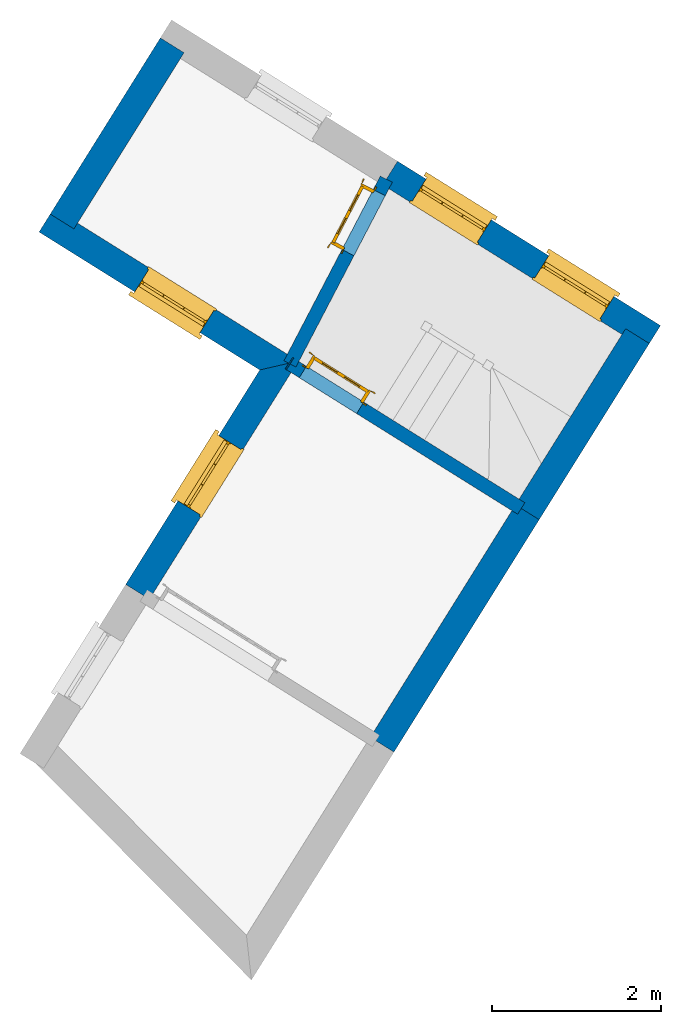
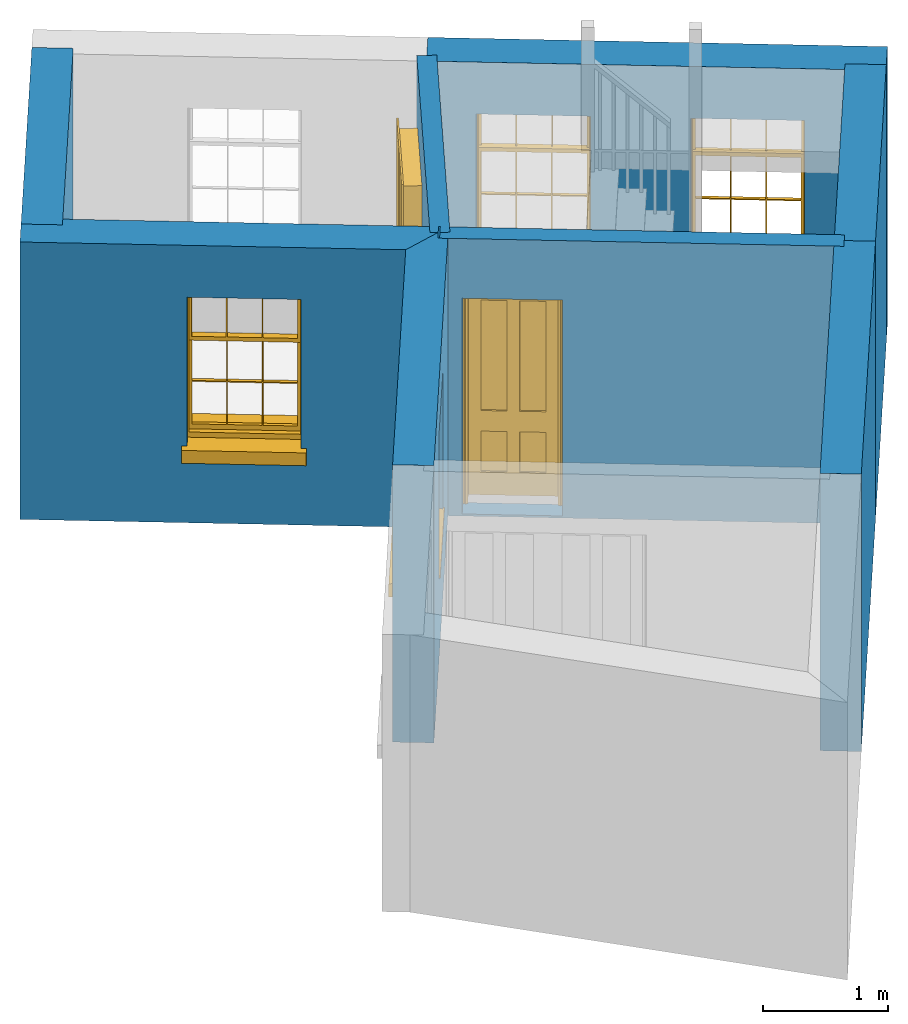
# One storey, part 2 of 4: 9 walls, 4 windows, 2 doors, 6 openings.
"""IFC4 building model written with IfcOpenShell, lengths in metres."""

from ifc_helpers import new_model, si_unit, frame, origin, origin_with_axes, place, context, subcontext, project, spatial, polyline, outline, extrude, faceted_brep, source, transform, mapped, material, layer, layer_set, layer_usage, type_object, type_shapes, element, fill, save


model = new_model("IFC4")

# Units and contexts
model_context = context("Model", 3, world=origin_with_axes())
body_context = subcontext(model_context, "Body", "Model", "MODEL_VIEW")
ifc_project = project(units=[si_unit("PLANEANGLEUNIT", "RADIAN"), si_unit("MASSUNIT", "GRAM", prefix="KILO"), si_unit("FORCEUNIT", "NEWTON", prefix="KILO"), si_unit("LENGTHUNIT", "METRE"), si_unit("AREAUNIT", "SQUARE_METRE"), si_unit("VOLUMEUNIT", "CUBIC_METRE")], contexts=[model_context, model_context])

# Sites, building, storey
site_1_placement = place(None, origin_with_axes())
site_1 = spatial("IfcSite", under=ifc_project, at=site_1_placement, Name="Tamar")
site_2_placement = place(site_1_placement, origin_with_axes())
site_2 = spatial("IfcSite", under=site_1, at=site_2_placement, Name="Site plot-3", CompositionType="ELEMENT")
building_placement = place(None, origin_with_axes())
building = spatial("IfcBuilding", under=site_2, at=building_placement, Name="Building plot-3", CompositionType="ELEMENT")
storey_placement = place(None, frame((0.0, 0.0, 27.8), z_axis=(0.0, 0.0, 1.0), x_axis=(1.0, 0.0, 0.0)))
storey = spatial("IfcBuildingStorey", under=building, at=storey_placement, Name="plot-3 1", CompositionType="ELEMENT", Elevation=27.8)

# Wall, opening, window
ifc_material_1 = material(Name="Masonry")
ifc_layer_1 = layer(ifc_material_1, 0.33, ventilated=False)
ifc_layer_set_1 = layer_set([ifc_layer_1], Name="exterior_0.08_0.25")
ifc_layer_usage_1 = layer_usage(ifc_layer_set_1, "AXIS2", "POSITIVE", -0.25)
wall_type_1 = type_object("IfcWallType", Name="exterior_0.08_0.25", PredefinedType="SOLIDWALL", material=ifc_layer_set_1)
wall_1_placement = place(storey_placement, frame((213.677187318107, 287.698431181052, 0.0), z_axis=(0.0, 0.0, 1.0), x_axis=(0.847981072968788, -0.530026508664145, 0.0)))
wall_1 = element("IfcWall", 1, at=wall_1_placement, inside=storey, type_object=wall_type_1, material=ifc_layer_usage_1, Name="exterior", context=body_context, shape_type="SweptSolid", body=[
    extrude(outline(polyline([(-0.249999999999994, 0.0800000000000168), (-0.249999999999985, -0.250000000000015), (2.82765367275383, -0.250000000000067), (3.15765367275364, 0.0800000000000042), (-0.249999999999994, 0.0800000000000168)])), origin_with_axes(), (0.0, 0.0, 1.0), 2.7),
])
opening_1_placement = place(wall_1_placement, frame((1.08382683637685, 0.0, 0.75)))
opening_1 = element("IfcOpeningElement", 2, at=opening_1_placement, cuts=wall_1, Name="My Opening", ObjectType="Opening", context=body_context, shape_type="SweptSolid", body=[
    extrude(outline(polyline([(0.0, -0.269999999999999), (0.909999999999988, -0.270000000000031), (0.91, 1.09999999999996), (1.24344978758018e-14, 1.09999999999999), (0.0, -0.269999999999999)])), origin_with_axes(), (0.0, 0.0, 1.0), 1.445),
])
window_type = type_object("IfcWindowType", Name="sash_shorter", PartitioningType="DOUBLE_PANEL_HORIZONTAL", PredefinedType="NOTDEFINED")
shared_shape_1 = source(origin(), body_context, "Body", "Brep", [
    faceted_brep([(0.876875, 0.145, 0.999097), (0.876875, 0.145, 1.411875), (0.9, 0.145, 1.435), (0.033125, 0.145, 1.411875), (0.033125, 0.145, 0.999097), (0.01, 0.145, 1.435), (0.033125, 0.115, 1.411875), (0.01, 0.115, 1.435), (0.033125, 0.115, 0.999097), (0.876875, 0.115, 1.411875), (0.876875, 0.115, 0.999097), (0.9, 0.115, 1.435), (0.033125, 0.145, 0.960972), (0.01, 0.145, 0.960972), (0.033125, 0.145, 0.548195), (0.876875, 0.145, 0.960972), (0.876875, 0.145, 0.548195), (0.9, 0.145, 0.960972), (0.876875, 0.145, 0.538195), (0.876875, 0.145, 0.125417), (0.9, 0.145, 0.077167), (0.033125, 0.145, 0.125417), (0.033125, 0.145, 0.538195), (0.01, 0.145, 0.077167), (0.9, 0.115, 0.960972), (0.01, 0.115, 0.960972), (-0.0425, 0.0, 0.01), (-0.0425, -0.05, 0.001667), (0.0, 0.0, 0.01), (0.9525, 0.0, 0.01), (0.91, 0.0, 0.01), (0.9525, -0.05, 0.001667), (-0.02, 0.33, 0.077167), (0.0, 0.33, 0.077167), (-0.02, 0.36, 0.077167), (0.0, 0.19, 0.077167), (0.01, 0.19, 0.077167), (0.91, 0.19, 0.077167), (0.91, 0.33, 0.077167), (0.9, 0.19, 0.077167), (0.93, 0.33, 0.077167), (0.93, 0.36, 0.077167), (0.01, 0.145, 0.999097), (0.01, 0.175, 0.999097), (0.9, 0.145, 0.999097), (0.9, 0.175, 0.999097), (0.876875, 0.175, 0.125417), (0.876875, 0.175, 0.538195), (0.9, 0.175, 0.077167), (0.876875, 0.175, 0.548195), (0.876875, 0.175, 0.960972), (0.033125, 0.175, 0.125417), (0.01, 0.175, 0.077167), (0.033125, 0.175, 0.538195), (0.033125, 0.175, 0.960972), (0.033125, 0.175, 0.548195), (-0.02, 0.33, 0.052167), (-0.02, 0.36, 0.052167), (0.93, 0.36, 0.052167), (0.93, 0.33, 0.052167), (0.91, 0.33, 0.052167), (0.0, 0.33, 0.052167), (0.91, 0.1, 0.026667), (0.0, 0.1, 0.026667), (-0.0425, -0.05, -0.123333), (0.9525, -0.05, -0.123333), (-0.0425, 0.0, -0.123333), (0.9525, 0.0, -0.123333), (0.01, 0.19, 1.435), (0.9, 0.19, 1.435), (0.0, 0.19, 1.445), (0.91, 0.19, 1.445), (0.01, 0.1, 0.077167), (0.9, 0.1, 0.077167), (0.592292, 0.145, 0.125417), (0.592292, 0.175, 0.125417), (0.317708, 0.175, 0.125417), (0.317708, 0.145, 0.125417), (0.592292, 0.145, 0.548195), (0.317708, 0.145, 0.548195), (0.317708, 0.145, 0.538195), (0.592292, 0.145, 0.538195), (0.592292, 0.175, 0.548195), (0.317708, 0.175, 0.548195), (0.602292, 0.175, 0.548195), (0.602292, 0.145, 0.548195), (0.317708, 0.175, 0.538195), (0.307708, 0.175, 0.125417), (0.307708, 0.175, 0.538195), (0.602292, 0.175, 0.538195), (0.602292, 0.175, 0.125417), (0.592292, 0.175, 0.538195), (0.307708, 0.175, 0.548195), (0.317708, 0.175, 0.960972), (0.307708, 0.175, 0.960972), (0.602292, 0.175, 0.960972), (0.592292, 0.175, 0.960972), (0.307708, 0.145, 0.538195), (0.307708, 0.145, 0.125417), (0.307708, 0.145, 0.548195), (0.307708, 0.145, 0.960972), (0.592292, 0.145, 0.960972), (0.317708, 0.145, 0.960972), (0.602292, 0.145, 0.960972), (0.602292, 0.145, 0.538195), (0.602292, 0.145, 0.125417), (0.317708, 0.115, 1.411875), (0.307708, 0.115, 1.411875), (0.307708, 0.115, 0.999097), (0.317708, 0.115, 0.999097), (0.602292, 0.115, 1.411875), (0.592292, 0.115, 1.411875), (0.592292, 0.115, 0.999097), (0.602292, 0.115, 0.999097), (0.317708, 0.145, 0.999097), (0.307708, 0.145, 0.999097), (0.307708, 0.145, 1.411875), (0.317708, 0.145, 1.411875), (0.602292, 0.145, 0.999097), (0.592292, 0.145, 0.999097), (0.592292, 0.145, 1.411875), (0.602292, 0.145, 1.411875), (0.91, 0.1, 1.445), (0.9, 0.1, 1.435), (0.01, 0.1, 1.435), (0.0, 0.1, 1.445), (0.91, 0.0, 0.0), (0.0, 0.0, 0.0), (0.91, 0.33, 0.0), (0.0, 0.33, 0.0)], [[[0, 1, 2]], [[3, 4, 5]], [[6, 7, 8]], [[9, 10, 11]], [[12, 13, 14]], [[15, 16, 17]], [[18, 19, 20]], [[21, 22, 23]], [[24, 15, 17]], [[13, 12, 25]], [[26, 27, 28]], [[29, 30, 31]], [[32, 33, 34]], [[35, 36, 33]], [[37, 38, 39]], [[40, 41, 38]], [[42, 4, 43]], [[44, 45, 0]], [[46, 47, 48]], [[49, 50, 45]], [[51, 52, 53]], [[54, 55, 43]], [[38, 33, 36, 39]], [[41, 34, 33, 38]], [[56, 32, 34, 57]], [[57, 34, 41, 58]], [[58, 41, 40, 59]], [[57, 58, 60, 61]], [[52, 48, 39, 36]], [[62, 63, 28, 30]], [[27, 31, 30, 28]], [[27, 64, 65, 31]], [[66, 67, 65, 64]], [[2, 5, 68, 69]], [[68, 70, 71, 69]], [[20, 23, 72, 73]], [[73, 72, 63, 62]], [[74, 75, 76, 77]], [[78, 79, 80, 81]], [[78, 82, 83, 79]], [[16, 49, 84, 85]], [[86, 76, 87, 88]], [[89, 90, 75, 91]], [[92, 88, 53, 55]], [[82, 91, 86, 83]], [[93, 83, 92, 94]], [[95, 84, 82, 96]], [[89, 84, 49, 47]], [[97, 88, 87, 98]], [[22, 53, 88, 97]], [[81, 91, 75, 74]], [[80, 86, 91, 81]], [[77, 76, 86, 80]], [[99, 92, 55, 14]], [[100, 94, 92, 99]], [[101, 96, 82, 78]], [[79, 83, 93, 102]], [[85, 84, 95, 103]], [[104, 89, 47, 18]], [[105, 90, 89, 104]], [[104, 18, 16, 85]], [[80, 97, 98, 77]], [[104, 81, 74, 105]], [[103, 101, 78, 85]], [[99, 14, 22, 97]], [[102, 100, 99, 79]], [[106, 107, 108, 109]], [[110, 111, 112, 113]], [[114, 115, 116, 117]], [[118, 119, 120, 121]], [[107, 116, 115, 108]], [[111, 120, 119, 112]], [[109, 114, 117, 106]], [[113, 118, 121, 110]], [[85, 78, 81, 104]], [[84, 89, 91, 82]], [[83, 86, 88, 92]], [[79, 99, 97, 80]], [[109, 112, 119, 114]], [[102, 93, 96, 101]], [[106, 117, 120, 111]], [[98, 87, 51, 21]], [[6, 3, 116, 107]], [[110, 121, 1, 9]], [[19, 46, 90, 105]], [[26, 66, 64, 27]], [[29, 31, 65, 67]], [[25, 24, 112, 109]], [[11, 7, 106, 111]], [[75, 48, 52, 76]], [[43, 45, 96, 93]], [[45, 43, 114, 119]], [[5, 2, 120, 117]], [[24, 25, 102, 101]], [[42, 5, 4]], [[2, 44, 0]], [[49, 45, 48, 47]], [[52, 43, 55, 53]], [[14, 13, 23, 22]], [[20, 17, 16, 18]], [[24, 11, 10]], [[25, 8, 7]], [[8, 4, 3, 6]], [[9, 1, 0, 10]], [[15, 50, 49, 16]], [[18, 47, 46, 19]], [[21, 51, 53, 22]], [[14, 55, 54, 12]], [[44, 2, 69, 45]], [[68, 5, 42, 43]], [[36, 35, 70, 68]], [[39, 69, 71, 37]], [[62, 122, 123, 73]], [[63, 72, 124, 125]], [[8, 108, 115, 4]], [[113, 10, 0, 118]], [[94, 100, 12, 54]], [[17, 20, 73, 24]], [[72, 23, 13, 25]], [[52, 36, 68, 43]], [[69, 39, 48, 45]], [[11, 24, 73, 123]], [[7, 124, 72, 25]], [[23, 77, 98]], [[98, 21, 23]], [[105, 74, 20]], [[20, 19, 105]], [[20, 74, 77, 23]], [[113, 112, 24]], [[24, 10, 113]], [[25, 109, 108]], [[108, 8, 25]], [[110, 9, 11]], [[11, 111, 110]], [[7, 6, 107]], [[107, 106, 7]], [[5, 117, 116]], [[116, 3, 5]], [[121, 120, 2]], [[2, 1, 121]], [[11, 123, 124, 7]], [[122, 125, 124, 123]], [[43, 93, 94]], [[94, 54, 43]], [[96, 45, 95]], [[50, 95, 45]], [[15, 103, 95, 50]], [[48, 75, 90]], [[90, 46, 48]], [[87, 76, 52]], [[52, 51, 87]], [[103, 15, 24]], [[24, 101, 103]], [[100, 102, 25]], [[25, 12, 100]], [[115, 114, 43]], [[43, 4, 115]], [[118, 0, 45]], [[45, 119, 118]], [[71, 70, 125, 122]], [[70, 35, 63, 125]], [[122, 62, 37, 71]], [[126, 67, 66, 127]], [[60, 58, 59]], [[38, 60, 59, 40]], [[61, 56, 57]], [[32, 56, 61, 33]], [[61, 60, 128, 129]], [[62, 60, 38, 37]], [[126, 128, 60, 62]], [[33, 61, 63, 35]], [[61, 129, 127, 63]], [[128, 126, 127, 129]], [[28, 127, 66, 26]], [[63, 127, 28]], [[29, 67, 126, 30]], [[30, 126, 62]]]),
])
type_shapes(window_type, [shared_shape_1])
window_1_placement = place(storey_placement, frame((214.453144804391, 286.895019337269, 0.75), z_axis=(0.0, 0.0, 1.0), x_axis=(0.77166277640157, -0.482324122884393, 0.0)))
window_1 = element("IfcWindow", 3, at=window_1_placement, inside=storey, type_object=window_type, Name="toilet outside window", OverallHeight=1.445, OverallWidth=0.91, context=body_context, shape_type="MappedRepresentation", body=[
    mapped(shared_shape_1, transform((0.0, 0.0, 0.0), scale=1.0)),
])
fill(opening_1, window_1)

wall_2_placement = place(storey_placement, frame((216.286979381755, 286.067193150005, 0.0), z_axis=(0.0, 0.0, 1.0), x_axis=(-0.530026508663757, -0.84798107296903, 0.0)))
wall_2 = element("IfcWall", 4, at=wall_2_placement, inside=storey, type_object=wall_type_1, material=ifc_layer_usage_1, Name="exterior", context=body_context, shape_type="SweptSolid", body=[
    extrude(outline(polyline([(-0.0799999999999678, 0.0799999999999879), (0.249999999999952, -0.249999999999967), (3.24059567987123, -0.249999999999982), (3.24059567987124, 0.0799999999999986), (-0.0799999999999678, 0.0799999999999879)])), origin_with_axes(), (0.0, 0.0, 1.0), 2.7),
])
opening_2_placement = place(wall_2_placement, frame((1.16529783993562, 0.0, 0.75)))
opening_2 = element("IfcOpeningElement", 5, at=opening_2_placement, cuts=wall_2, Name="My Opening", ObjectType="Opening", context=body_context, shape_type="SweptSolid", body=[
    extrude(outline(polyline([(0.0, -0.269999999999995), (0.909999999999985, -0.270000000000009), (0.910000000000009, 1.1), (2.44249065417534e-14, 1.10000000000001), (0.0, -0.269999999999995)])), origin_with_axes(), (0.0, 0.0, 1.0), 1.445),
])
window_2_placement = place(storey_placement, frame((215.440385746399, 285.222149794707, 0.75), z_axis=(0.0, 0.0, 1.0), x_axis=(-0.482324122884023, -0.771662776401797, 0.0)))
window_2 = element("IfcWindow", 6, at=window_2_placement, inside=storey, type_object=window_type, Name="living outside window", OverallHeight=1.445, OverallWidth=0.91, context=body_context, shape_type="MappedRepresentation", body=[
    mapped(shared_shape_1, transform((0.0, 0.0, 0.0), scale=1.0)),
])
fill(opening_2, window_2)

# Wall, openings, windows
wall_3_placement = place(storey_placement, frame((220.336316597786, 286.433012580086, 0.0), z_axis=(0.0, 0.0, 1.0), x_axis=(-0.847981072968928, 0.53002650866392, 0.0)))
wall_3 = element("IfcWall", 7, at=wall_3_placement, inside=storey, type_object=wall_type_1, material=ifc_layer_usage_1, Name="exterior", context=body_context, shape_type="SweptSolid", body=[
    extrude(outline(polyline([(-0.249999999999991, 0.0800000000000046), (-0.249999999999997, -0.249999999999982), (3.41702773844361, -0.24999999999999), (3.41702773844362, 0.0799999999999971), (-0.249999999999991, 0.0800000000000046)])), origin_with_axes(), (0.0, 0.0, 1.0), 2.7),
])
opening_3_placement = place(wall_3_placement, frame((0.399256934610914, 0.0, 0.75)))
opening_3 = element("IfcOpeningElement", 8, at=opening_3_placement, cuts=wall_3, Name="My Opening", ObjectType="Opening", context=body_context, shape_type="SweptSolid", body=[
    extrude(outline(polyline([(0.0, -0.269999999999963), (0.909999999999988, -0.269999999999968), (0.910000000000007, 1.1), (2.00950367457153e-14, 1.10000000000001), (0.0, -0.269999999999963)])), origin_with_axes(), (0.0, 0.0, 1.0), 1.445),
])
opening_4_placement = place(wall_3_placement, frame((2.1092569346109, 0.0, 0.75)))
opening_4 = element("IfcOpeningElement", 9, at=opening_4_placement, cuts=wall_3, Name="My Opening", ObjectType="Opening", context=body_context, shape_type="SweptSolid", body=[
    extrude(outline(polyline([(0.0, -0.269999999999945), (0.909999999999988, -0.26999999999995), (0.910000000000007, 1.10000000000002), (1.95399252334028e-14, 1.10000000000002), (0.0, -0.269999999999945)])), origin_with_axes(), (0.0, 0.0, 1.0), 1.445),
])
window_3_placement = place(storey_placement, frame((220.140861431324, 286.873584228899, 0.75), z_axis=(0.0, 0.0, 1.0), x_axis=(-0.771662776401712, 0.482324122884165, 0.0)))
window_3 = element("IfcWindow", 10, at=window_3_placement, inside=storey, type_object=window_type, Name="circulation outside window", OverallHeight=1.445, OverallWidth=0.91, context=body_context, shape_type="MappedRepresentation", body=[
    mapped(shared_shape_1, transform((0.0, 0.0, 0.0), scale=1.0)),
])
fill(opening_3, window_3)
window_4_placement = place(storey_placement, frame((218.690813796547, 287.779929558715, 0.75), z_axis=(0.0, 0.0, 1.0), x_axis=(-0.771662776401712, 0.482324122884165, 0.0)))
window_4 = element("IfcWindow", 11, at=window_4_placement, inside=storey, type_object=window_type, Name="circulation outside window", OverallHeight=1.445, OverallWidth=0.91, context=body_context, shape_type="MappedRepresentation", body=[
    mapped(shared_shape_1, transform((0.0, 0.0, 0.0), scale=1.0)),
])
fill(opening_4, window_4)

# Walls
ifc_material_2 = material(Name="Masonry")
ifc_layer_2 = layer(ifc_material_2, 0.33, ventilated=False)
ifc_layer_set_2 = layer_set([ifc_layer_2], Name="party_0.08_0.25")
ifc_layer_usage_2 = layer_usage(ifc_layer_set_2, "AXIS2", "POSITIVE", -0.25)
wall_type_2 = type_object("IfcWallType", Name="party_0.08_0.25", PredefinedType="SOLIDWALL", material=ifc_layer_set_2)
wall_4_placement = place(storey_placement, frame((214.979178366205, 289.781466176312, 0.0), z_axis=(0.0, 0.0, 1.0), x_axis=(-0.5300265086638, -0.847981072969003, 0.0)))
element("IfcWall", 12, at=wall_4_placement, inside=storey, type_object=wall_type_2, material=ifc_layer_usage_2, Name="party", context=body_context, shape_type="SweptSolid", body=[
    extrude(outline(polyline([(1.05013367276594e-14, 0.0799999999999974), (2.06654563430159e-14, -0.249999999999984), (2.45646401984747, -0.249999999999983), (2.45646401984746, 0.0799999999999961), (1.05013367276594e-14, 0.0799999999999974)])), origin_with_axes(), (0.0, 0.0, 1.0), 2.7),
])
wall_5_placement = place(storey_placement, frame((217.316723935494, 281.602013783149, 0.0), z_axis=(0.0, 0.0, 1.0), x_axis=(0.530026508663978, 0.847981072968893, 0.0)))
element("IfcWall", 13, at=wall_5_placement, inside=storey, type_object=wall_type_2, material=ifc_layer_usage_2, Name="party", context=body_context, shape_type="SweptSolid", body=[
    extrude(outline(polyline([(-6.23011391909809e-15, 0.0799999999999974), (8.8055993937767e-14, -0.250000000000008), (3.24059567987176, -0.24999999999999), (3.24059567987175, 0.0799999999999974), (-6.23011391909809e-15, 0.0799999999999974)])), origin_with_axes(), (0.0, 0.0, 1.0), 2.7),
])
wall_6_placement = place(storey_placement, frame((219.034325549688, 284.349977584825, 0.0), z_axis=(0.0, 0.0, 1.0), x_axis=(0.530026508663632, 0.847981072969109, 0.0)))
element("IfcWall", 14, at=wall_6_placement, inside=storey, type_object=wall_type_2, material=ifc_layer_usage_2, Name="party", context=body_context, shape_type="SweptSolid", body=[
    extrude(outline(polyline([(2.64015612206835e-14, 0.0799999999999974), (-9.22442252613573e-14, -0.24999999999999), (2.45646401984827, -0.250000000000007), (2.4564640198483, 0.0800000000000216), (2.64015612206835e-14, 0.0799999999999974)])), origin_with_axes(), (0.0, 0.0, 1.0), 2.7),
])

# Wall, opening, door
ifc_material_3 = material(Name="Masonry")
ifc_layer_3 = layer(ifc_material_3, 0.16, ventilated=False)
ifc_layer_set_3 = layer_set([ifc_layer_3], Name="interior_0.08_0.08")
ifc_layer_usage_3 = layer_usage(ifc_layer_set_3, "AXIS2", "POSITIVE", -0.08)
wall_type_3 = type_object("IfcWallType", Name="interior_0.08_0.08", PredefinedType="SOLIDWALL", material=ifc_layer_set_3)
wall_7_placement = place(storey_placement, frame((216.299124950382, 286.059601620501, 0.0), z_axis=(0.0, 0.0, 1.0), x_axis=(0.462522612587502, 0.886607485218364, 0.0)))
wall_7 = element("IfcWall", 15, at=wall_7_placement, inside=storey, type_object=wall_type_3, material=ifc_layer_usage_3, Name="interior", context=body_context, shape_type="SweptSolid", body=[
    extrude(outline(polyline([(-5.45772033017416e-16, 0.0799999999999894), (5.37805639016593e-16, -0.0799999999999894), (2.46391585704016, -0.0799999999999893), (2.46391585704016, 0.0799999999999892), (-5.45772033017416e-16, 0.0799999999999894)])), origin_with_axes(), (0.0, 0.0, 1.0), 2.7),
])
opening_5_placement = place(wall_7_placement, frame((1.48391585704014, 0.0, 0.0199999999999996)))
opening_5 = element("IfcOpeningElement", 16, at=opening_5_placement, cuts=wall_7, Name="My Opening", ObjectType="Opening", context=body_context, shape_type="SweptSolid", body=[
    extrude(outline(polyline([(0.0, -0.100000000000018), (0.80000000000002, -0.100000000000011), (0.800000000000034, 1.10000000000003), (1.3988810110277e-14, 1.10000000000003), (0.0, -0.100000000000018)])), origin_with_axes(), (0.0, 0.0, 1.0), 2.1),
])
door_type = type_object("IfcDoorType", Name="door_inside", OperationType="SINGLE_SWING_LEFT", PredefinedType="NOTDEFINED")
shared_shape_2 = source(origin(), body_context, "Body", "Brep", [
    faceted_brep([(0.773, 0.33, 1.895), (0.66, 0.33, 1.895), (0.66, 0.33, 2.073), (0.773, 0.33, 2.073), (0.773, 0.33, 0.82), (0.66, 0.33, 0.82), (0.45, 0.33, 1.895), (0.45, 0.33, 2.073), (0.773, 0.33, 0.62), (0.66, 0.33, 0.62), (0.66, 0.315, 0.82), (0.66, 0.315, 1.895), (0.45, 0.315, 1.895), (0.35, 0.33, 1.895), (0.35, 0.33, 2.073), (0.773, 0.33, 0.225), (0.66, 0.33, 0.225), (0.45, 0.33, 0.62), (0.45, 0.33, 0.82), (0.45, 0.315, 0.82), (0.35, 0.33, 0.82), (0.14, 0.33, 2.073), (0.14, 0.33, 1.895), (0.773, 0.33, 0.0), (0.66, 0.33, 0.0), (0.66, 0.315, 0.225), (0.66, 0.315, 0.62), (0.45, 0.315, 0.62), (0.35, 0.33, 0.62), (0.35, 0.315, 0.82), (0.35, 0.315, 1.895), (0.14, 0.315, 1.895), (0.027, 0.33, 2.073), (0.027, 0.33, 1.895), (0.773, 0.292, 0.0), (0.66, 0.292, 0.0), (0.45, 0.33, 0.0), (0.45, 0.33, 0.225), (0.45, 0.315, 0.225), (0.35, 0.33, 0.225), (0.14, 0.33, 0.82), (0.14, 0.33, 0.62), (0.14, 0.315, 0.82), (0.027, 0.33, 0.82), (0.773, 0.292, 0.225), (0.66, 0.292, 0.225), (0.45, 0.292, 0.0), (0.35, 0.33, 0.0), (0.35, 0.315, 0.225), (0.35, 0.315, 0.62), (0.14, 0.315, 0.62), (0.027, 0.33, 0.62), (0.773, 0.292, 0.62), (0.66, 0.292, 0.62), (0.45, 0.292, 0.225), (0.35, 0.292, 0.0), (0.14, 0.33, 0.225), (0.14, 0.33, 0.0), (0.14, 0.315, 0.225), (0.027, 0.33, 0.225), (0.773, 0.292, 0.82), (0.66, 0.292, 0.82), (0.66, 0.307, 0.62), (0.66, 0.307, 0.225), (0.45, 0.307, 0.225), (0.35, 0.292, 0.225), (0.14, 0.292, 0.0), (0.027, 0.33, 0.0), (0.773, 0.292, 1.895), (0.66, 0.292, 1.895), (0.45, 0.292, 0.62), (0.45, 0.292, 0.82), (0.45, 0.307, 0.62), (0.35, 0.292, 0.62), (0.14, 0.292, 0.225), (0.027, 0.292, 0.0), (0.773, 0.292, 2.073), (0.66, 0.292, 2.073), (0.66, 0.307, 1.895), (0.66, 0.307, 0.82), (0.45, 0.307, 0.82), (0.35, 0.292, 0.82), (0.35, 0.307, 0.62), (0.35, 0.307, 0.225), (0.14, 0.307, 0.225), (0.027, 0.292, 0.225), (0.45, 0.292, 1.895), (0.45, 0.292, 2.073), (0.45, 0.307, 1.895), (0.35, 0.292, 1.895), (0.14, 0.292, 0.82), (0.14, 0.292, 0.62), (0.14, 0.307, 0.62), (0.027, 0.292, 0.62), (0.35, 0.292, 2.073), (0.35, 0.307, 1.895), (0.35, 0.307, 0.82), (0.14, 0.307, 0.82), (0.027, 0.292, 0.82), (0.14, 0.292, 2.073), (0.14, 0.292, 1.895), (0.14, 0.307, 1.895), (0.027, 0.292, 1.895), (0.027, 0.292, 2.073), (0.02, 0.335, 0.0), (0.005, 0.34, 0.0), (0.005, 0.34, 2.095), (0.02, 0.335, 2.08), (0.02, 0.33, 0.0), (0.0, 0.335, 0.0), (0.0, 0.335, 2.1), (0.795, 0.34, 2.095), (0.78, 0.335, 2.08), (0.02, 0.33, 2.08), (0.0, 0.33, 0.0), (-0.032, 0.345, 0.0), (-0.032, 0.345, 2.132), (0.8, 0.335, 2.1), (0.795, 0.34, 0.0), (0.78, 0.335, 0.0), (0.78, 0.33, 2.08), (0.04, 0.29, 0.0), (0.025, 0.29, 0.0), (0.025, 0.29, 2.075), (0.04, 0.29, 2.06), (-0.04, 0.34, 0.0), (-0.04, 0.34, 2.14), (0.832, 0.345, 2.132), (0.8, 0.335, 0.0), (0.78, 0.33, 0.0), (0.8, 0.33, 0.0), (0.86, 0.33, 0.0), (0.86, 0.33, 2.16), (0.8, 0.33, 2.1), (-0.06, 0.33, 2.16), (0.0, 0.33, 2.1), (-0.06, 0.33, 0.0), (-0.04, 0.345, 0.0), (-0.04, 0.345, 2.14), (0.84, 0.34, 2.14), (0.832, 0.345, 0.0), (0.84, 0.34, 0.0), (0.86, 0.345, 0.0), (0.86, 0.345, 2.16), (-0.06, 0.345, 2.16), (-0.06, 0.345, 0.0), (0.84, 0.345, 0.0), (0.84, 0.345, 2.14), (-0.025, 0.155, 0.0), (-0.025, 0.16, 0.0), (-0.025, 0.16, 2.125), (-0.025, 0.155, 2.125), (-0.017, 0.155, 0.0), (-0.017, 0.155, 2.117), (0.825, 0.16, 2.125), (0.825, 0.155, 2.125), (0.825, 0.155, 0.0), (0.845, 0.155, 0.0), (-0.045, 0.155, 2.145), (-0.045, 0.155, 0.0), (0.845, 0.155, 2.145), (0.015, 0.165, 0.0), (0.015, 0.165, 2.085), (0.817, 0.155, 2.117), (0.825, 0.16, 0.0), (0.845, 0.17, 0.0), (0.845, 0.17, 2.145), (-0.045, 0.17, 2.145), (-0.045, 0.17, 0.0), (0.02, 0.16, 0.0), (0.02, 0.16, 2.08), (0.785, 0.165, 2.085), (0.817, 0.155, 0.0), (0.8, 0.17, 0.0), (0.8, 0.17, 2.1), (0.0, 0.17, 2.1), (0.0, 0.17, 0.0), (0.035, 0.165, 0.0), (0.035, 0.165, 2.065), (0.78, 0.16, 2.08), (0.785, 0.165, 0.0), (0.775, 0.29, 2.075), (0.76, 0.29, 2.06), (0.035, 0.17, 2.065), (0.035, 0.17, 0.0), (0.765, 0.165, 2.065), (0.78, 0.16, 0.0), (0.765, 0.17, 0.0), (0.765, 0.17, 2.065), (0.765, 0.165, 0.0), (0.04, 0.17, 2.06), (0.04, 0.17, 0.0), (0.76, 0.17, 2.06), (0.76, 0.17, 0.0), (0.76, 0.29, 0.0), (0.775, 0.29, 0.0), (0.025, 0.33, 0.0), (0.025, 0.33, 2.075), (0.775, 0.33, 0.0), (0.775, 0.33, 2.075)], [[[0, 1, 2, 3]], [[1, 0, 4, 5]], [[1, 6, 7, 2]], [[8, 9, 5, 4]], [[1, 5, 10, 11]], [[6, 1, 11, 12]], [[6, 13, 14, 7]], [[15, 16, 9, 8]], [[9, 17, 18, 5]], [[5, 18, 19, 10]], [[10, 19, 12, 11]], [[18, 6, 12, 19]], [[18, 20, 13, 6]], [[21, 14, 13, 22]], [[23, 24, 16, 15]], [[9, 16, 25, 26]], [[17, 9, 26, 27]], [[17, 28, 20, 18]], [[13, 20, 29, 30]], [[22, 13, 30, 31]], [[32, 21, 22, 33]], [[34, 35, 24, 23]], [[24, 36, 37, 16]], [[16, 37, 38, 25]], [[25, 38, 27, 26]], [[37, 17, 27, 38]], [[37, 39, 28, 17]], [[40, 20, 28, 41]], [[20, 40, 42, 29]], [[31, 30, 29, 42]], [[40, 22, 31, 42]], [[33, 22, 40, 43]], [[35, 34, 44, 45]], [[35, 46, 36, 24]], [[36, 47, 39, 37]], [[28, 39, 48, 49]], [[41, 28, 49, 50]], [[43, 40, 41, 51]], [[45, 44, 52, 53]], [[46, 35, 45, 54]], [[46, 55, 47, 36]], [[56, 39, 47, 57]], [[39, 56, 58, 48]], [[50, 49, 48, 58]], [[56, 41, 50, 58]], [[51, 41, 56, 59]], [[53, 52, 60, 61]], [[45, 53, 62, 63]], [[54, 45, 63, 64]], [[55, 46, 54, 65]], [[55, 66, 57, 47]], [[59, 56, 57, 67]], [[61, 60, 68, 69]], [[70, 53, 61, 71]], [[53, 70, 72, 62]], [[72, 64, 63, 62]], [[70, 54, 64, 72]], [[65, 54, 70, 73]], [[65, 74, 66, 55]], [[67, 57, 66, 75]], [[69, 68, 76, 77]], [[61, 69, 78, 79]], [[71, 61, 79, 80]], [[73, 70, 71, 81]], [[65, 73, 82, 83]], [[74, 65, 83, 84]], [[74, 85, 75, 66]], [[86, 69, 77, 87]], [[69, 86, 88, 78]], [[88, 80, 79, 78]], [[86, 71, 80, 88]], [[81, 71, 86, 89]], [[73, 81, 90, 91]], [[73, 91, 92, 82]], [[83, 82, 92, 84]], [[91, 74, 84, 92]], [[91, 93, 85, 74]], [[89, 86, 87, 94]], [[81, 89, 95, 96]], [[90, 81, 96, 97]], [[90, 98, 93, 91]], [[94, 99, 100, 89]], [[89, 100, 101, 95]], [[101, 97, 96, 95]], [[100, 90, 97, 101]], [[100, 102, 98, 90]], [[99, 103, 102, 100]], [[32, 103, 99, 21]], [[102, 103, 32, 33]], [[98, 102, 33, 43]], [[21, 99, 94, 14]], [[94, 87, 7, 14]], [[7, 87, 77, 2]], [[76, 3, 2, 77]], [[43, 51, 93, 98]], [[51, 59, 85, 93]], [[67, 75, 85, 59]], [[34, 23, 15, 44]], [[44, 15, 8, 52]], [[52, 8, 4, 60]], [[0, 68, 60, 4]], [[0, 3, 76, 68]], [[104, 105, 106, 107]], [[104, 108, 109, 105]], [[105, 109, 110, 106]], [[107, 106, 111, 112]], [[107, 113, 108, 104]], [[114, 109, 108]], [[109, 115, 116, 110]], [[106, 110, 117, 111]], [[112, 111, 118, 119]], [[113, 107, 112, 120]], [[121, 122, 123, 124]], [[115, 109, 114, 125]], [[115, 125, 126, 116]], [[110, 116, 127, 117]], [[111, 117, 128, 118]], [[118, 128, 129, 119]], [[120, 112, 119, 129]], [[130, 129, 128]], [[130, 131, 132, 133]], [[133, 132, 134, 135]], [[135, 134, 136, 114]], [[136, 125, 114]], [[125, 137, 138, 126]], [[116, 126, 139, 127]], [[117, 127, 140, 128]], [[141, 130, 128, 140]], [[131, 130, 141]], [[131, 142, 143, 132]], [[132, 143, 144, 134]], [[134, 144, 145, 136]], [[137, 125, 136, 145]], [[143, 142, 146]], [[143, 146, 147]], [[137, 145, 144]], [[143, 147, 138]], [[138, 137, 144]], [[143, 138, 144]], [[126, 138, 147, 139]], [[127, 139, 141, 140]], [[142, 131, 141, 146]], [[139, 147, 146, 141]], [[148, 149, 150, 151]], [[149, 152, 153, 150]], [[151, 150, 154, 155]], [[155, 156, 157]], [[158, 159, 148]], [[158, 148, 151]], [[155, 157, 160]], [[158, 151, 155]], [[155, 160, 158]], [[152, 161, 162, 153]], [[150, 153, 163, 154]], [[155, 154, 164, 156]], [[156, 164, 165, 157]], [[157, 165, 166, 160]], [[160, 166, 167, 158]], [[158, 167, 168, 159]], [[161, 169, 170, 162]], [[153, 162, 171, 163]], [[154, 163, 172, 164]], [[165, 164, 173]], [[165, 173, 174, 166]], [[166, 174, 175, 167]], [[167, 175, 176, 168]], [[169, 177, 178, 170]], [[162, 170, 179, 171]], [[163, 171, 180, 172]], [[172, 180, 173, 164]], [[124, 123, 181, 182]], [[183, 178, 177, 184]], [[170, 178, 185, 179]], [[171, 179, 186, 180]], [[187, 173, 180]], [[185, 188, 187, 189]], [[188, 185, 178, 183]], [[179, 185, 189, 186]], [[189, 187, 180, 186]], [[190, 183, 184, 191]], [[192, 188, 183, 190]], [[191, 184, 122, 121]], [[124, 190, 191, 121]], [[193, 187, 188, 192]], [[182, 192, 190, 124]], [[184, 176, 122]], [[194, 195, 187, 193]], [[192, 182, 194, 193]], [[161, 176, 184]], [[114, 108, 122, 176]], [[173, 187, 195]], [[152, 149, 176, 161]], [[169, 161, 184, 177]], [[196, 122, 108]], [[176, 175, 135, 114]], [[173, 195, 129, 130]], [[176, 149, 168]], [[123, 122, 196, 197]], [[196, 108, 113, 197]], [[175, 174, 133, 135]], [[198, 129, 195]], [[133, 174, 173, 130]], [[159, 168, 149, 148]], [[181, 123, 197, 199]], [[197, 113, 120, 199]], [[199, 120, 129, 198]], [[195, 181, 199, 198]], [[195, 194, 182, 181]]]),
])
type_shapes(door_type, [shared_shape_2])
door_1_placement = place(storey_placement, frame((217.074130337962, 287.329000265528, 0.0199999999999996), z_axis=(0.0, 0.0, 1.0), x_axis=(0.370018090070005, 0.709285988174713, 0.0)))
door_1 = element("IfcDoor", 17, at=door_1_placement, inside=storey, type_object=door_type, Name="toilet inside door", OverallHeight=2.1, OverallWidth=0.8, context=body_context, shape_type="MappedRepresentation", body=[
    mapped(shared_shape_2, transform((0.0, 0.0, 0.0), scale=1.0)),
])
fill(opening_5, door_1)

# Wall
wall_8_placement = place(storey_placement, frame((216.299124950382, 286.059601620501, 0.0), z_axis=(0.0, 0.0, 1.0), x_axis=(-0.847981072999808, 0.530026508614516, 0.0)))
element("IfcWall", 18, at=wall_8_placement, inside=storey, type_object=wall_type_3, material=ifc_layer_usage_3, Name="interior", context=body_context, shape_type="SweptSolid", body=[
    extrude(outline(polyline([(1.44289161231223e-14, 0.0799999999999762), (-1.44368825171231e-14, -0.0799999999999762), (0.0143229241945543, -0.0799999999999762), (0.0143229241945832, 0.0799999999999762), (1.44289161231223e-14, 0.0799999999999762)])), origin_with_axes(), (0.0, 0.0, 1.0), 2.7),
])

# Wall, opening, door
wall_9_placement = place(storey_placement, frame((216.299124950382, 286.059601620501, 0.0), z_axis=(0.0, 0.0, 1.0), x_axis=(0.847981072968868, -0.530026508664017, 0.0)))
wall_9 = element("IfcWall", 19, at=wall_9_placement, inside=storey, type_object=wall_type_3, material=ifc_layer_usage_3, Name="interior", context=body_context, shape_type="SweptSolid", body=[
    extrude(outline(polyline([(-9.94269971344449e-15, 0.0799999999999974), (9.93290253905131e-15, -0.0799999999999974), (3.22554439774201, -0.0799999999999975), (3.22554439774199, 0.0799999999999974), (-9.94269971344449e-15, 0.0799999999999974)])), origin_with_axes(), (0.0, 0.0, 1.0), 2.7),
])
opening_6_placement = place(wall_9_placement, frame((0.179999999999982, 0.0, 0.0199999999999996)))
opening_6 = element("IfcOpeningElement", 20, at=opening_6_placement, cuts=wall_9, Name="My Opening", ObjectType="Opening", context=body_context, shape_type="SweptSolid", body=[
    extrude(outline(polyline([(0.0, -0.0999999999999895), (0.80000000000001, -0.100000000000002), (0.800000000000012, 1.09999999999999), (1.55431223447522e-15, 1.1), (0.0, -0.0999999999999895)])), origin_with_axes(), (0.0, 0.0, 1.0), 2.1),
])
door_2_placement = place(storey_placement, frame((216.39875889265, 285.879398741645, 0.0199999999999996), z_axis=(0.0, 0.0, 1.0), x_axis=(0.678384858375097, -0.424021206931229, 0.0)))
door_2 = element("IfcDoor", 21, at=door_2_placement, inside=storey, type_object=door_type, Name="living inside door", OverallHeight=2.1, OverallWidth=0.8, context=body_context, shape_type="MappedRepresentation", body=[
    mapped(shared_shape_2, transform((0.0, 0.0, 0.0), scale=1.0)),
])
fill(opening_6, door_2)

save(model, "model.ifc")
